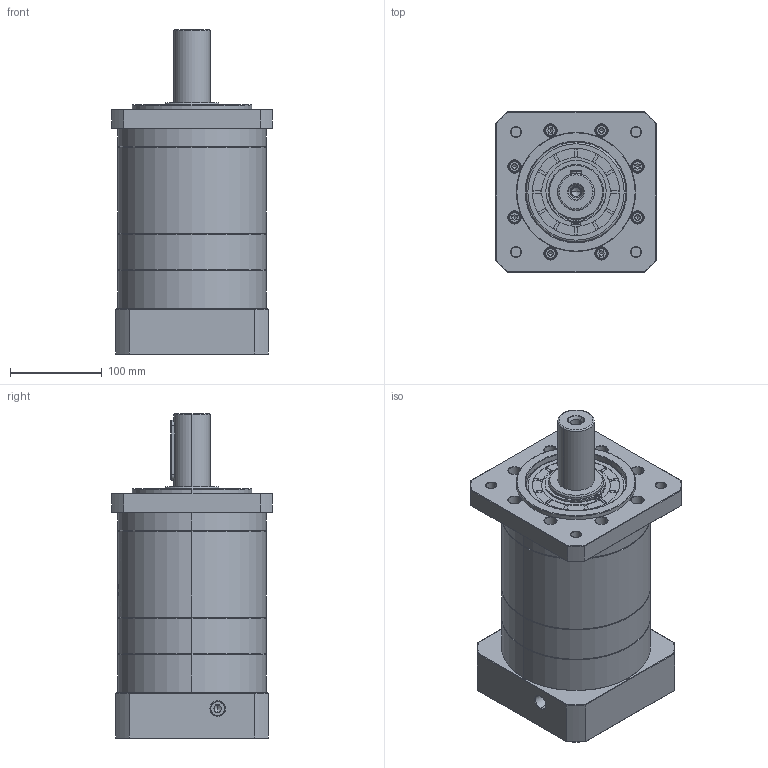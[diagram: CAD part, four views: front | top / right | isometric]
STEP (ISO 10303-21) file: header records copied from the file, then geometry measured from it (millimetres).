
FILE_DESCRIPTION (( 'STEP AP214' ), '1' );
FILE_NAME ('ZF160-D40-L3-32-150-185-M10.step', '2023-03-21T04:30:27', ( '' ), ( '' ), 'SwSTEP 2.0', 'SolidWorks 2016', '' );
FILE_SCHEMA (( 'AUTOMOTIVE_DESIGN' ));
Length unit declared in the file: millimetre
Products named in the file (1): ZF160-D40-L3-32-150-185-M10
Bounding box: 175 x 175 x 354.2 mm (x, y, z)
Volume: 5691078.1 mm3; surface area: 369336.3 mm2
Topology: 6 solids, 6 shells, 1642 faces, 4265 edges, 2727 vertices
Faces by surface type: plane 644, cylinder 428, cone 330, bspline 218, torus 22
Entity records: 93238 total; most frequent: CARTESIAN_POINT 37252, ORIENTED_EDGE 8470, DIRECTION 7174, EDGE_CURVE 4235, VERTEX_POINT 2727, AXIS2_PLACEMENT_3D 2487, LINE 2200, VECTOR 2200
